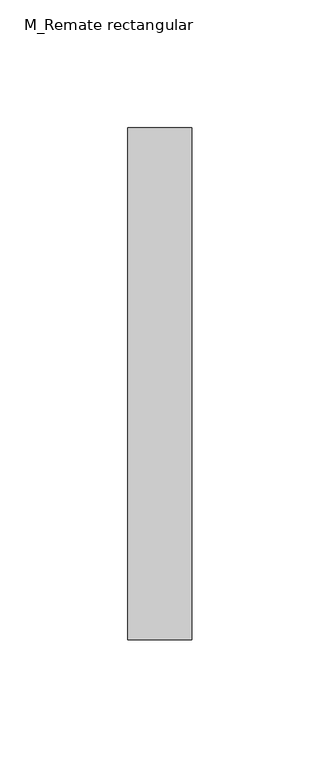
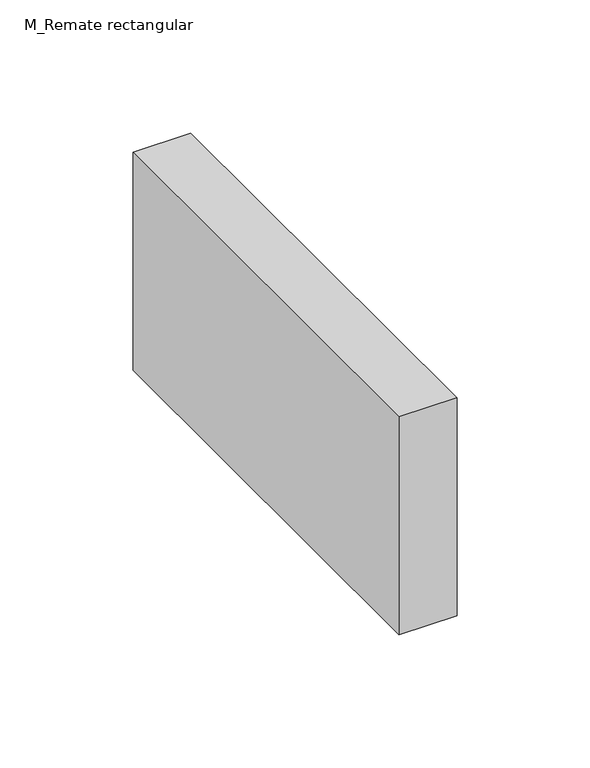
"""IFC4 building model written with IfcOpenShell, lengths in millimetres: duct fitting geometry, M_Remate rectangular : Estándar."""

from ifc_helpers import new_model, si_unit, frame, origin, place, context, project, spatial, polyline, outline, extrude, source, transform, mapped, element, save


def m_remate_rectangular_bc7f6652(model_context):
    return source(origin(), model_context, "Body", "SweptSolid", [
        extrude(outline(polyline([(0.0, -100.0), (0.0, 100.0), (25.0, 100.0), (25.0, -100.0), (0.0, -100.0)])), frame((0.0, 0.0, -50.0), z_axis=(0.0, 0.0, 1.0), x_axis=(1.0, 0.0, 0.0)), (0.0, 0.0, 1.0), 100.0),
    ])


if __name__ == "__main__":
    model = new_model("IFC4")
    model_context = context("Model", 3, world=origin())
    ifc_project = project(units=[si_unit("LENGTHUNIT", "METRE", prefix="MILLI")], contexts=[model_context])
    site = spatial("IfcSite", under=ifc_project)
    building = spatial("IfcBuilding", under=site)
    placement = place(None, origin())
    m_remate_rectangular_shape = m_remate_rectangular_bc7f6652(model_context)
    element("IfcDuctFitting", 1, ObjectType="M_Remate rectangular : Estándar", at=placement, inside=building, context=model_context, shape_type="MappedRepresentation", body=[
        mapped(m_remate_rectangular_shape, transform((0.0, 0.0, 0.0), x_axis=(1.0, 0.0, 0.0), y_axis=(0.0, 1.0, 0.0), z_axis=(0.0, 0.0, 1.0))),
    ])
    save(model, "model.ifc")
